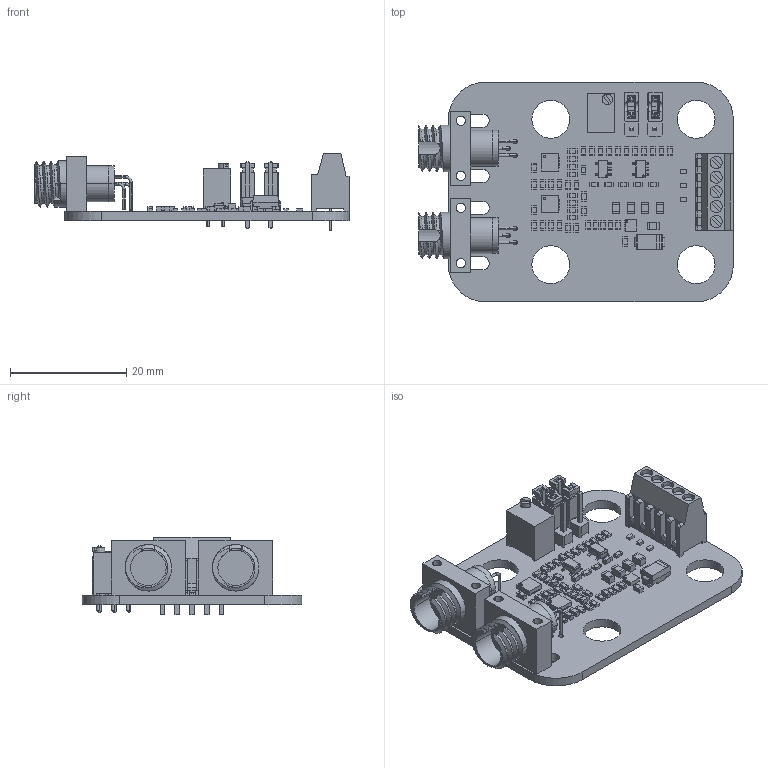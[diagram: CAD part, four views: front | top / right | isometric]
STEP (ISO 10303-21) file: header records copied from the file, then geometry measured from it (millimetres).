
FILE_DESCRIPTION(('Open CASCADE Model'),'2;1');
FILE_NAME('Open CASCADE Shape Model','2025-05-19T13:01:56',('Author'),( 'Open CASCADE'),'Open CASCADE STEP processor 6.8','Open CASCADE 6.8' ,'Unknown');
FILE_SCHEMA(('AUTOMOTIVE_DESIGN { 1 0 10303 214 1 1 1 1 }'));
Length unit declared in the file: millimetre
Products named in the file (137): PD10R
Assembly tree (292 placements, depth 4):
  PD10R
    PD10R
      PD10R
    PD10R
      PD10R
      PD10R
      PD10R
    PD10R
      PD10R
      PD10R
      PD10R
    PD10R
      PD10R
      PD10R
      PD10R
      PD10R
      PD10R
      PD10R
      PD10R
    PD10R
      PD10R
      PD10R
      PD10R
      PD10R
      PD10R
      PD10R
      PD10R
      PD10R
      PD10R
    PD10R
      PD10R
        PD10R
        PD10R
        PD10R
        PD10R
        PD10R
        PD10R
        PD10R
        PD10R
        PD10R
        PD10R
        PD10R
        PD10R
        PD10R
        PD10R
        PD10R
        PD10R
        PD10R
        PD10R
    PD10R
      PD10R
        PD10R
        PD10R
        PD10R
        PD10R
        PD10R
        PD10R
        PD10R
        PD10R
        PD10R
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Bounding box: 54.13 x 37.8 x 13.4 mm (x, y, z)
Volume: 5020.5 mm3; surface area: 8278.1 mm2
Topology: 245 solids, 247 shells, 2288 faces, 5170 edges, 3406 vertices
Faces by surface type: plane 2022, cylinder 234, bspline 20, torus 12
Full cylindrical faces by diameter (mm): 0.25 x4, 0.65 x2, 0.8 x6, 0.9 x9, 1.1 x5, 6.5 x4
Entity records: 36558 total; most frequent: CARTESIAN_POINT 6350, DIRECTION 4888, ORIENTED_EDGE 4448, EDGE_CURVE 2224, LINE 1844, VECTOR 1844, AXIS2_PLACEMENT_3D 1522, VERTEX_POINT 1460
